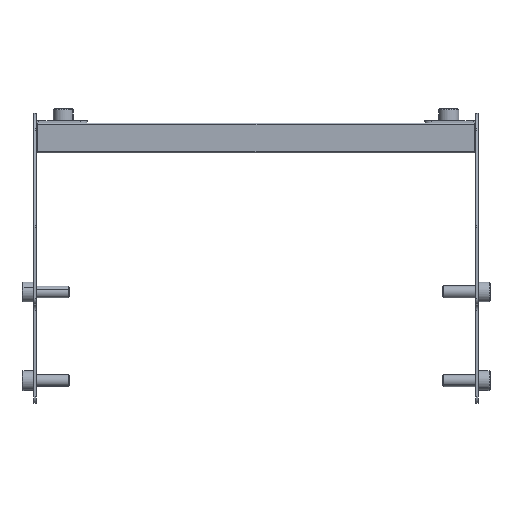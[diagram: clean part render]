
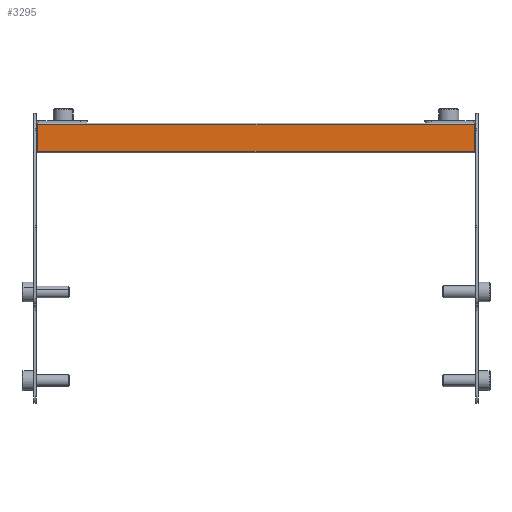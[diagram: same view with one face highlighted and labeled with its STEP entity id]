
A CAD part, front view. The second image highlights one B-rep face of the part: STEP entity #3295.
In plain terms, the highlighted planar face has unit normal (0, -1, 0) as drawn and (1, 0, 0) by its records, which use the part's own axes.
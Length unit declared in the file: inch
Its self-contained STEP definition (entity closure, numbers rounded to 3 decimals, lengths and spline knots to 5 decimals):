
#1821=DIRECTION('',(0.,-1.,0.));
#1822=VECTOR('',#1821,0.53055);
#1823=CARTESIAN_POINT('',(0.78127,0.26528,-4.30675));
#1824=LINE('',#1823,#1822);
#2166=DIRECTION('',(0.,0.,1.));
#2167=VECTOR('',#2166,8.6135);
#2168=CARTESIAN_POINT('',(0.78127,-0.26528,-4.30675));
#2169=LINE('',#2168,#2167);
#2174=DIRECTION('',(0.,-1.,0.));
#2175=VECTOR('',#2174,0.53055);
#2176=CARTESIAN_POINT('',(0.78127,0.26528,4.30675));
#2177=LINE('',#2176,#2175);
#2182=DIRECTION('',(0.,0.,-1.));
#2183=VECTOR('',#2182,8.6135);
#2184=CARTESIAN_POINT('',(0.78127,0.26528,4.30675));
#2185=LINE('',#2184,#2183);
#2459=CARTESIAN_POINT('',(0.78127,-0.26528,4.30675));
#2461=VERTEX_POINT('',#2459);
#2508=CARTESIAN_POINT('',(0.78127,-0.26528,-4.30675));
#2510=VERTEX_POINT('',#2508);
#2646=CARTESIAN_POINT('',(0.78127,0.26528,4.30675));
#2647=CARTESIAN_POINT('',(0.78127,0.26528,-4.30675));
#2648=VERTEX_POINT('',#2646);
#2649=VERTEX_POINT('',#2647);
#3283=CARTESIAN_POINT('',(0.78127,0.29528,4.30675));
#3284=DIRECTION('',(-1.,0.,0.));
#3285=DIRECTION('',(0.,0.,1.));
#3286=AXIS2_PLACEMENT_3D('',#3283,#3284,#3285);
#3287=PLANE('',#3286);
#3288=ORIENTED_EDGE('',*,*,#2725,.F.);
#3290=ORIENTED_EDGE('',*,*,#3289,.T.);
#3291=ORIENTED_EDGE('',*,*,#2928,.T.);
#3292=ORIENTED_EDGE('',*,*,#3276,.T.);
#3293=EDGE_LOOP('',(#3288,#3290,#3291,#3292));
#3294=FACE_OUTER_BOUND('',#3293,.F.);
#2725=EDGE_CURVE('',#2648,#2461,#2177,.T.);
#2928=EDGE_CURVE('',#2649,#2510,#1824,.T.);
#3276=EDGE_CURVE('',#2510,#2461,#2169,.T.);
#3289=EDGE_CURVE('',#2648,#2649,#2185,.T.);
#3295=ADVANCED_FACE('',(#3294),#3287,.F.);
